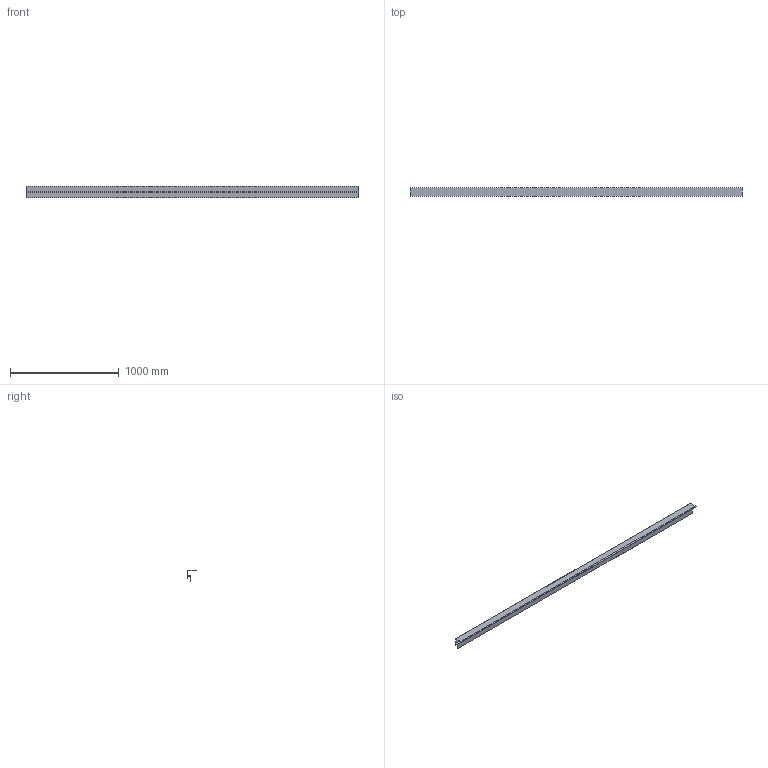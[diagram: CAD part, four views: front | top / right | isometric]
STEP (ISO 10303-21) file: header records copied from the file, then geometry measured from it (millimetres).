
FILE_DESCRIPTION(/* description */ (''),/* implementation_level */ '2;1');
FILE_NAME(/* name */ 'C:\Users\Utilisateur\Mac Metal\Site de communication - Documents\Ingénierie\Développement de produits\Board and Batten\Dessins\Moulures\M03H\M03H.stp',/* time_stamp */ '2022-08-10T13:38:43-04:00',/* author */ ('Utilisateur'),/* organization */ (''),/* preprocessor_version */ 'ST-DEVELOPER v18.1',/* originating_system */ 'Autodesk Inventor 2021',/* authorisation */ '');
FILE_SCHEMA (('AUTOMOTIVE_DESIGN { 1 0 10303 214 3 1 1 }'));
Length unit declared in the file: inch
Products named in the file (1): J-trim à palette variable
Bounding box: 3048 x 78.24 x 101.09 mm (x, y, z)
Volume: 414349.1 mm3; surface area: 1634664.2 mm2
Topology: 1 solids, 1 shells, 26 faces, 72 edges, 48 vertices
Faces by surface type: plane 16, cylinder 10
Entity records: 879 total; most frequent: CARTESIAN_POINT 147, DIRECTION 146, ORIENTED_EDGE 144, EDGE_CURVE 72, LINE 52, VECTOR 52, VERTEX_POINT 48, AXIS2_PLACEMENT_3D 47
